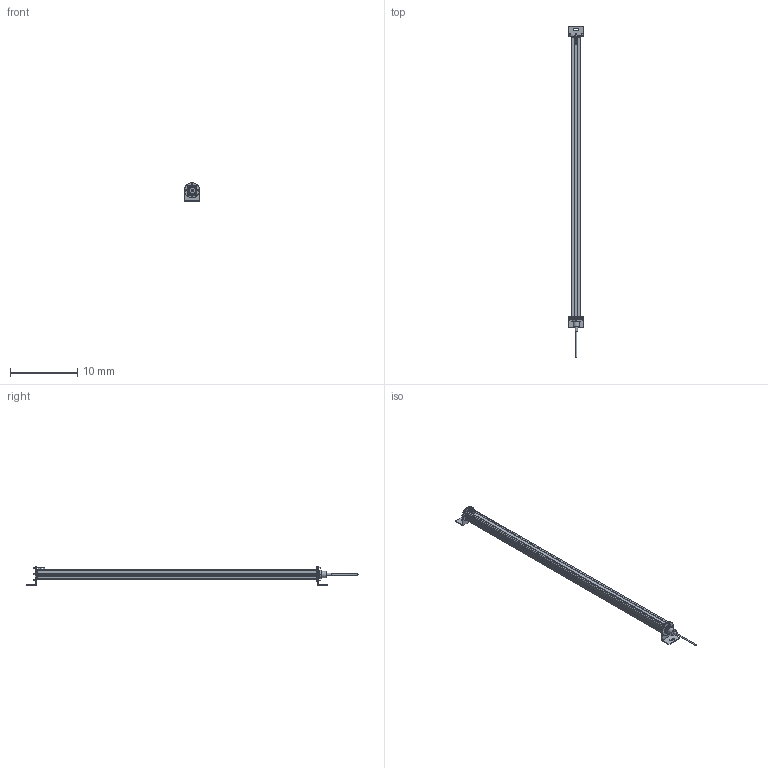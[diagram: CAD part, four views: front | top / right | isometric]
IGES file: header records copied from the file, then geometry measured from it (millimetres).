
Start section:  Autodesk DirectConnect version 7.0.27.0 ---- IGES version 5.3
Global section: file name: C:\ACADFILES\MG_PYLONS\CUSTOMER_FILES\MG-40-PYLON_3D_SMB.iges; native system: Autodesk DirectConnect 7.0.27.0; preprocessor: 7.0.27.0; author: ENGINEERMAIN; organization: Unknown; date: 20150810.142427; units: millimetre
Bounding box: 2.26 x 49.44 x 2.75 mm (x, y, z)
Surface area: 677.2 mm2 (no closed solid volume)
Topology: 0 solids, 0 shells, 771 faces, 3970 edges, 3969 vertices
Faces by surface type: bspline 771
